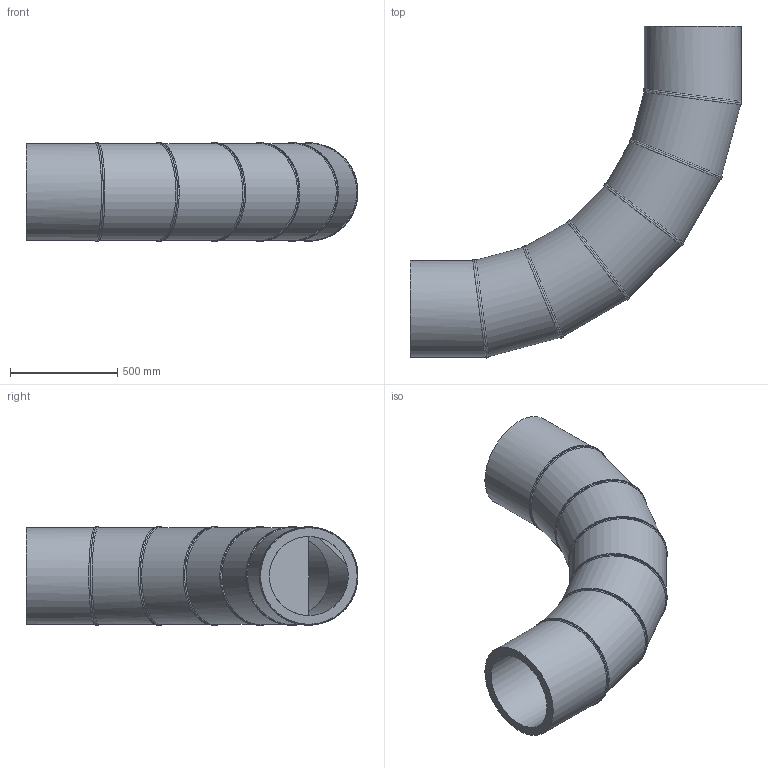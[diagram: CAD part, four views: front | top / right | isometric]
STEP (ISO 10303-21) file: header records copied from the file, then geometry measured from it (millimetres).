
FILE_DESCRIPTION(/* description */ ('Unknown'),/* implementation_level */ '2;1');
FILE_NAME(/* name */ 'Curva 90° a settore DE450 SDR11',/* time_stamp */ '2022-07-27T09:07:34+02:00',/* author */ ('Unknown'),/* organization */ ('Unknown'),/* preprocessor_version */ 'ST-DEVELOPER v18.102',/* originating_system */ 'Solid Edge',/* authorisation */ 'Unknown');
FILE_SCHEMA (('AUTOMOTIVE_DESIGN {1 0 10303 214 3 1 1}'));
Length unit declared in the file: millimetre
Products named in the file (3): Curva 90° a settore DE450 SDR11; Tubo x Gomito 90° DE450 SDR11 - 2; Tubo x Gomito 90° DE450 SDR11 - 1
Assembly tree (7 placements, depth 2):
  Curva 90° a settore DE450 SDR11
    Tubo x Gomito 90° DE450 SDR11 - 2  x5
    Tubo x Gomito 90° DE450 SDR11 - 1  x2
Bounding box: 1545.47 x 1545.47 x 457.99 mm (x, y, z)
Volume: 113745820.6 mm3; surface area: 6362199.3 mm2
Topology: 7 solids, 7 shells, 64 faces, 143 edges, 93 vertices
Faces by surface type: cylinder 38, plane 14, bspline 12
Full cylindrical faces by diameter (mm): 368.2 x7, 450 x7
Entity records: 2438 total; most frequent: CARTESIAN_POINT 2015, DIRECTION 78, ORIENTED_EDGE 52, AXIS2_PLACEMENT_3D 39, EDGE_LOOP 28, FACE_BOUND 28, EDGE_CURVE 26, VERTEX_POINT 20
